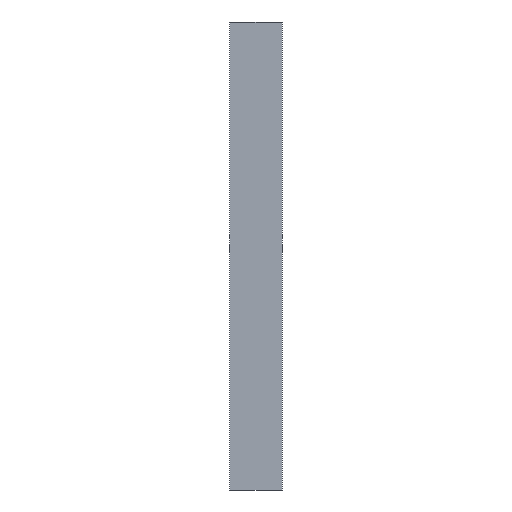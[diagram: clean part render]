
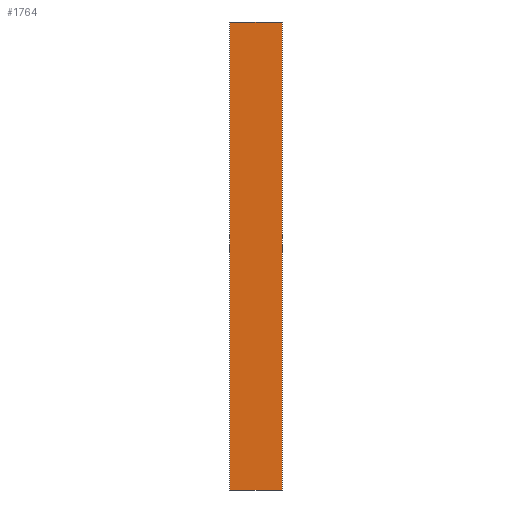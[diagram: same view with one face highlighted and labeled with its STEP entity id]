
A CAD part, front view. The second image highlights one B-rep face of the part: STEP entity #1764.
In plain terms, the highlighted planar face has unit normal (0, -1, 0).
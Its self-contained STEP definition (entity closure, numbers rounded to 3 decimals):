
#136=ORIENTED_EDGE('',*,*,#675,.F.);
#137=ORIENTED_EDGE('',*,*,#674,.F.);
#138=ORIENTED_EDGE('',*,*,#676,.T.);
#139=ORIENTED_EDGE('',*,*,#677,.T.);
#674=EDGE_CURVE('',#943,#942,#1122,.T.);
#675=EDGE_CURVE('',#942,#944,#1123,.T.);
#676=EDGE_CURVE('',#943,#945,#1124,.T.);
#677=EDGE_CURVE('',#945,#944,#1125,.T.);
#942=VERTEX_POINT('',#2571);
#943=VERTEX_POINT('',#2573);
#944=VERTEX_POINT('',#2577);
#945=VERTEX_POINT('',#2579);
#1122=LINE('',#2574,#1320);
#1123=LINE('',#2576,#1321);
#1124=LINE('',#2578,#1322);
#1125=LINE('',#2580,#1323);
#1320=VECTOR('',#2045,1000.);
#1321=VECTOR('',#2048,1000.);
#1322=VECTOR('',#2049,1000.);
#1323=VECTOR('',#2050,1000.);
#1516=EDGE_LOOP('',(#136,#137,#138,#139));
#1612=FACE_BOUND('',#1516,.T.);
#1707=PLANE('',#1871);
#1764=ADVANCED_FACE('',(#1612),#1707,.T.);
#1871=AXIS2_PLACEMENT_3D('',#2575,#2046,#2047);
#2045=DIRECTION('',(0.,0.,1.));
#2046=DIRECTION('',(0.,-1.,0.));
#2047=DIRECTION('',(0.,0.,-1.));
#2048=DIRECTION('',(1.,0.,0.));
#2049=DIRECTION('',(1.,0.,0.));
#2050=DIRECTION('',(0.,0.,1.));
#2571=CARTESIAN_POINT('',(-67.257,0.,0.));
#2573=CARTESIAN_POINT('',(-67.257,0.,-1200.));
#2574=CARTESIAN_POINT('',(-67.257,0.,-1200.));
#2575=CARTESIAN_POINT('',(-67.257,0.,-1200.));
#2576=CARTESIAN_POINT('',(-67.257,0.,0.));
#2577=CARTESIAN_POINT('',(67.257,0.,0.));
#2578=CARTESIAN_POINT('',(-67.257,0.,-1200.));
#2579=CARTESIAN_POINT('',(67.257,0.,-1200.));
#2580=CARTESIAN_POINT('',(67.257,0.,-1200.));
